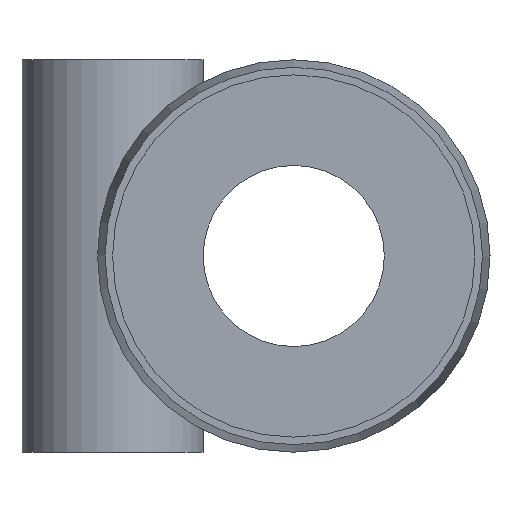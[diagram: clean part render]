
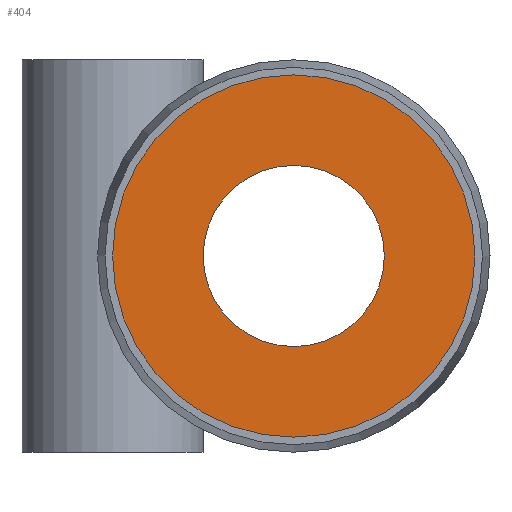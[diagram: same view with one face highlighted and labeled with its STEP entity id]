
A CAD part, left-side view. The second image highlights one B-rep face of the part: STEP entity #404.
In plain terms, the highlighted planar face has unit normal (-1, 0, 0).
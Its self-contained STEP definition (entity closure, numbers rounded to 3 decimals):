
#202=CARTESIAN_POINT('',(-16.75,-3.0,0.));
#203=VERTEX_POINT('',#202);
#204=CARTESIAN_POINT('',(-16.75,0.0,0.0));
#205=DIRECTION('',(1.0,0.0,0.0));
#206=DIRECTION('',(0.0,1.0,0.0));
#207=AXIS2_PLACEMENT_3D('',#204,#205,#206);
#208=CIRCLE('',#207,3.0);
#209=EDGE_CURVE('',#203,#203,#208,.T.);
#378=CARTESIAN_POINT('',(-16.75,6.,0.0));
#379=VERTEX_POINT('',#378);
#380=CARTESIAN_POINT('',(-16.75,0.0,0.0));
#381=DIRECTION('',(1.0,0.0,0.0));
#382=DIRECTION('',(0.0,1.0,0.0));
#383=AXIS2_PLACEMENT_3D('',#380,#381,#382);
#384=CIRCLE('',#383,6.);
#385=EDGE_CURVE('',#379,#379,#384,.T.);
#393=CARTESIAN_POINT('',(-16.75,3.0,0.0));
#394=DIRECTION('',(1.0,0.0,0.0));
#395=DIRECTION('',(0.0,0.0,-1.0));
#396=AXIS2_PLACEMENT_3D('',#393,#394,#395);
#397=PLANE('',#396);
#398=ORIENTED_EDGE('',*,*,#385,.F.);
#399=EDGE_LOOP('',(#398));
#400=FACE_OUTER_BOUND('',#399,.T.);
#401=ORIENTED_EDGE('',*,*,#209,.T.);
#402=EDGE_LOOP('',(#401));
#403=FACE_BOUND('',#402,.T.);
#404=ADVANCED_FACE('',(#400,#403),#397,.F.);
